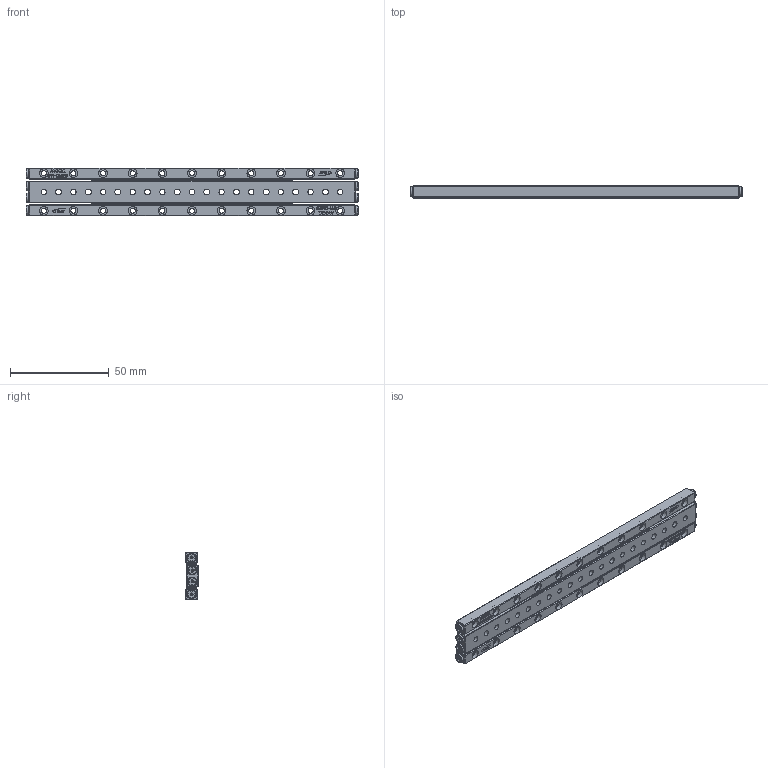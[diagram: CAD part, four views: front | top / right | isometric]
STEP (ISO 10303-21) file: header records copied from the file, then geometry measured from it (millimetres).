
FILE_DESCRIPTION (( 'STEP AP203' ), '1' );
FILE_NAME ('GRD02-165.STEP', '2023-09-14T05:06:18', ( '' ), ( '' ), 'SwSTEP 2.0', 'SolidWorks 2019', '' );
FILE_SCHEMA (( 'CONFIG_CONTROL_DESIGN' ));
Length unit declared in the file: millimetre
Products named in the file (4): GRV02-165-模糊化軌道; GRV02-165-模糊化保持器組; GRD02-165-模糊化中軌; GRD02-165
Assembly tree (5 placements, depth 2):
  GRD02-165
    GRD02-165-模糊化中軌
    GRV02-165-模糊化軌道  x2
    GRV02-165-模糊化保持器組  x2
Bounding box: 168 x 6.5 x 24 mm (x, y, z)
Volume: 19561.6 mm3; surface area: 19308.2 mm2
Topology: 5 solids, 5 shells, 2613 faces, 6668 edges, 4352 vertices
Faces by surface type: plane 1634, cylinder 608, bspline 183, torus 116, cone 72
Full cylindrical faces by diameter (mm): 2.6 x22, 2.7 x11, 3 x10, 4.4 x33, 4.7 x8
Entity records: 52352 total; most frequent: CARTESIAN_POINT 17435, ORIENTED_EDGE 7562, DIRECTION 6301, EDGE_CURVE 3781, VERTEX_POINT 2499, LINE 2287, VECTOR 2287, AXIS2_PLACEMENT_3D 2007
